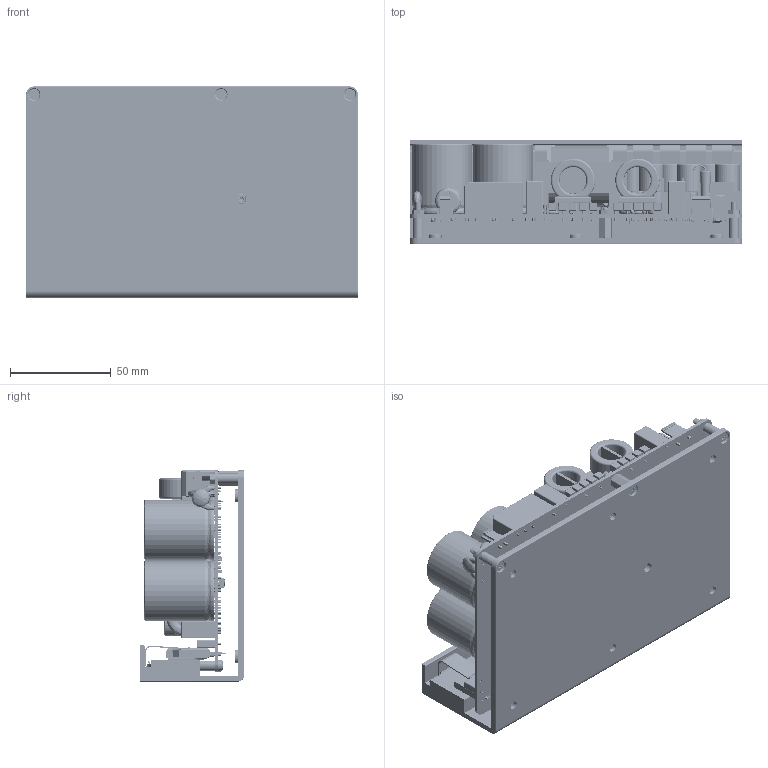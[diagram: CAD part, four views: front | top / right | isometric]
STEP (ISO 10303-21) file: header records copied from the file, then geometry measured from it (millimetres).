
FILE_DESCRIPTION (( 'STEP AP214' ), '1' );
FILE_NAME ('SMPS1200Axx0_08xx.STEP', '2016-07-22T08:43:25', ( '' ), ( '' ), 'SwSTEP 2.0', 'SolidWorks 2014', '' );
FILE_SCHEMA (( 'AUTOMOTIVE_DESIGN' ));
Length unit declared in the file: millimetre
Products named in the file (16): Bolt M3x12 Panhead slotted Nylon; Bolt M3x20 Countersunk TX Zinc; Hsink SAA16L3W0H8T3; Nut M3 DIN934; PCB SMPS1200 B08; Nut M3 Nylon; Hsink Spring Clip; Hsink SBA16L10W5H3T2; STEEL_PRESSNUT; Bolt M3x12 Panhead TX Zinc_MRT-TT-M3x12H-Steel-fzb; Spacer M3x10 Male-Female Nylon_D‚faut; Spacer 3x5x10mm Nylon; Spacer 3x5x7,5mm Nylon; SMPS1200Axx0_08xx; Bolt M3x8 Countersunk TX Zinc
Assembly tree (37 placements, depth 3):
  SMPS1200Axx0_08xx
    PCB SMPS1200 B08
    Hsink SAA16L3W0H8T3
    Spacer 3x5x10mm Nylon  x2
    Spacer M3x10 Male-Female Nylon_D‚faut
    Spacer 3x5x7,5mm Nylon  x2
    Nut M3 Nylon
    Nut M3 DIN934  x2
    Bolt M3x12 Panhead slotted Nylon
    Bolt M3x12 Panhead TX Zinc_MRT-TT-M3x12H-Steel-fzb
    Bolt M3x20 Countersunk TX Zinc  x2
    Bolt M3x8 Countersunk TX Zinc  x7
    Hsink Spring Clip  x8
    Hsink SBA16L10W5H3T2
      Hsink SBA16L10W5H3T2
      STEEL_PRESSNUT  x6
Bounding box: 165 x 52 x 105 mm (x, y, z)
Volume: 119019.9 mm3; surface area: 182375.8 mm2
Topology: 35 solids, 310 shells, 5322 faces, 14576 edges, 9181 vertices
Faces by surface type: cylinder 1901, plane 1525, cone 932, bspline 785, torus 156, sphere 23
Entity records: 172246 total; most frequent: CARTESIAN_POINT 38297, DIRECTION 22065, ORIENTED_EDGE 18982, EDGE_CURVE 11121, AXIS2_PLACEMENT_3D 8073, VERTEX_POINT 7349, VECTOR 5919, LINE 5919
